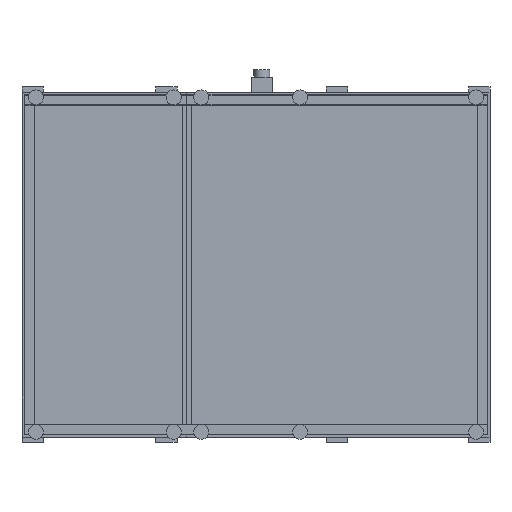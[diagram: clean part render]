
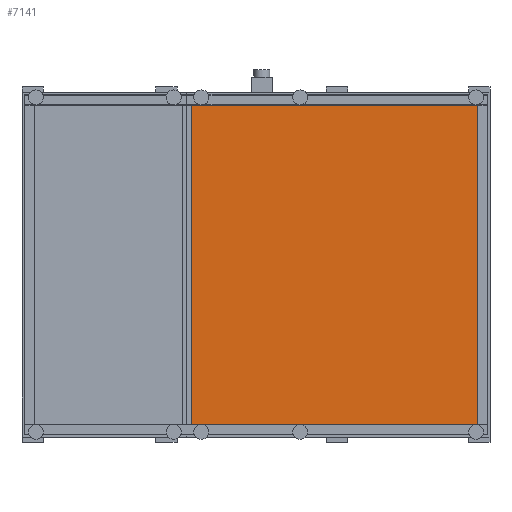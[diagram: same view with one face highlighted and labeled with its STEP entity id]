
A CAD part, front view. The second image highlights one B-rep face of the part: STEP entity #7141.
In plain terms, the highlighted planar face has unit normal (0, -1, 0).
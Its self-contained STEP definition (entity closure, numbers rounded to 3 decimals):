
#284=PLANE('',#7849);
#696=FACE_OUTER_BOUND('',#1128,.T.);
#1128=EDGE_LOOP('',(#5698,#5699,#5700,#5701));
#1601=LINE('',#10995,#2352);
#1616=LINE('',#11024,#2367);
#1624=LINE('',#11040,#2375);
#1688=LINE('',#11167,#2439);
#2352=VECTOR('',#9026,10.);
#2367=VECTOR('',#9051,10.);
#2375=VECTOR('',#9065,10.);
#2439=VECTOR('',#9167,10.);
#3497=VERTEX_POINT('',#10989);
#3499=VERTEX_POINT('',#10993);
#3508=VERTEX_POINT('',#11022);
#3513=VERTEX_POINT('',#11039);
#4290=EDGE_CURVE('',#3497,#3499,#1601,.T.);
#4305=EDGE_CURVE('',#3499,#3508,#1616,.T.);
#4313=EDGE_CURVE('',#3513,#3497,#1624,.T.);
#4377=EDGE_CURVE('',#3513,#3508,#1688,.T.);
#5698=ORIENTED_EDGE('',*,*,#4290,.T.);
#5699=ORIENTED_EDGE('',*,*,#4305,.T.);
#5700=ORIENTED_EDGE('',*,*,#4377,.F.);
#5701=ORIENTED_EDGE('',*,*,#4313,.T.);
#7141=ADVANCED_FACE('',(#696),#284,.T.);
#7849=AXIS2_PLACEMENT_3D('',#11169,#9169,#9170);
#9026=DIRECTION('',(0.,0.,1.));
#9051=DIRECTION('',(-1.,0.,0.));
#9065=DIRECTION('',(1.,0.,0.));
#9167=DIRECTION('',(0.,0.,1.));
#9169=DIRECTION('center_axis',(0.,-1.,0.));
#9170=DIRECTION('ref_axis',(0.,0.,-1.));
#10989=CARTESIAN_POINT('',(1032.5,-920.,-745.));
#10993=CARTESIAN_POINT('',(1032.5,-920.,745.));
#10995=CARTESIAN_POINT('',(1032.5,-920.,201.25));
#11022=CARTESIAN_POINT('',(-301.5,-920.,745.));
#11024=CARTESIAN_POINT('',(0.,-920.,745.));
#11039=CARTESIAN_POINT('',(-301.5,-920.,-745.));
#11040=CARTESIAN_POINT('',(0.,-920.,-745.));
#11167=CARTESIAN_POINT('',(-301.5,-920.,603.75));
#11169=CARTESIAN_POINT('Origin',(0.,-920.,402.5));
